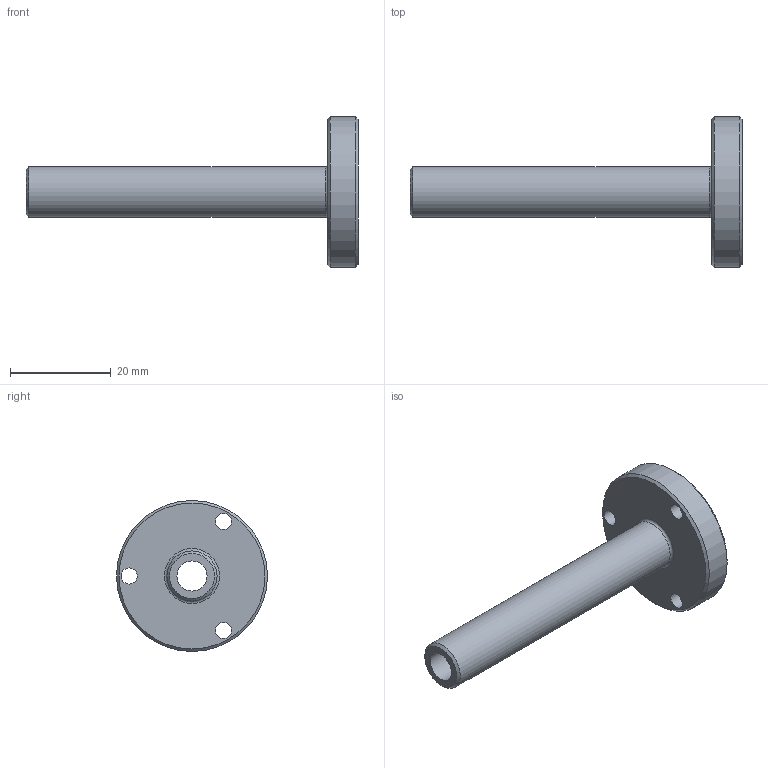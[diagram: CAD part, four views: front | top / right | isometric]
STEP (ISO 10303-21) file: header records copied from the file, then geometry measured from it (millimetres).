
FILE_DESCRIPTION(/* description */ ('Halter 3-Finger-Greifer DN16'),/* implementation_level */ '2;1');
FILE_NAME(/* name */ 'J:\_TEMP - INPUT - Daten Austausch\CADs\stp Dateien für homepage\GR06.125-16.stp',/* time_stamp */ '2016-11-14T09:44:16+01:00',/* author */ ('DFloßmann'),/* organization */ (''),/* preprocessor_version */ 'ST-DEVELOPER v16.5',/* originating_system */ 'Autodesk Inventor 2017',/* authorisation */ '');
FILE_SCHEMA (('AUTOMOTIVE_DESIGN { 1 0 10303 214 3 1 1 }'));
Length unit declared in the file: millimetre
Products named in the file (1): GR06.125-16
Bounding box: 66 x 30 x 30 mm (x, y, z)
Volume: 6870.3 mm3; surface area: 5103 mm2
Topology: 1 solids, 1 shells, 13 faces, 29 edges, 19 vertices
Faces by surface type: cylinder 6, plane 3, cone 3, torus 1
Full cylindrical faces by diameter (mm): 3.2 x3, 6 x1, 9.95 x1, 30 x1
Entity records: 340 total; most frequent: DIRECTION 60, CARTESIAN_POINT 46, EDGE_LOOP 32, ORIENTED_EDGE 32, AXIS2_PLACEMENT_3D 30, FACE_BOUND 19, CIRCLE 16, VERTEX_POINT 16
